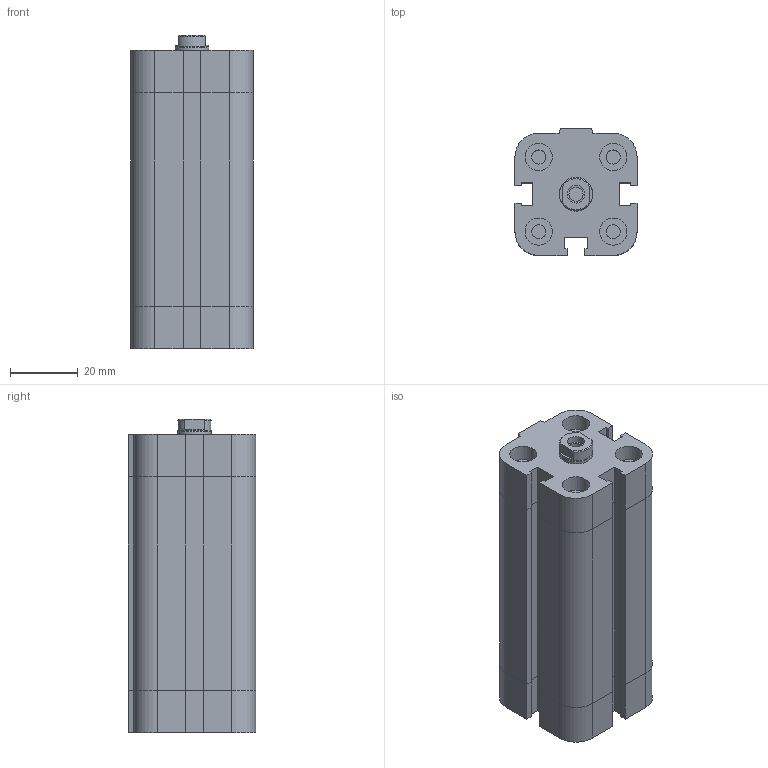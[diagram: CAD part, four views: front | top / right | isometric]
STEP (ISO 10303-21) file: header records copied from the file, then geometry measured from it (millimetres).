
FILE_DESCRIPTION((''),'2;1');
FILE_NAME('I:\Area Tecnica\Disegni\VARIE-3D\Componenti\EUROPE\15##_###_####_01_#\1581_20_0050_01_1.stp','2008-12-19T15:39:47',('rivolro1'),(''),'Autodesk Inventor 2009','Autodesk Inventor 2009','');
FILE_SCHEMA(('AUTOMOTIVE_DESIGN { 1 0 10303 214 1 1 1 1 }'));
Length unit declared in the file: millimetre
Products named in the file (3): 1581_20_0050_01_1; 1581_20_0050_01_1_C; 1561_20_0050_01_1_S
Assembly tree (2 placements, depth 2):
  1581_20_0050_01_1
    1581_20_0050_01_1_C
    1561_20_0050_01_1_S
Bounding box: 36 x 37.5 x 92.5 mm (x, y, z)
Volume: 99363.4 mm3; surface area: 25308.2 mm2
Topology: 2 solids, 2 shells, 163 faces, 349 edges, 211 vertices
Faces by surface type: plane 112, bspline 26, cylinder 22, cone 3
Full cylindrical faces by diameter (mm): 4.134 x4, 8 x4, 9.8 x1, 10 x1
Entity records: 4455 total; most frequent: CARTESIAN_POINT 952, DIRECTION 662, ORIENTED_EDGE 630, EDGE_CURVE 315, VECTOR 244, LINE 244, AXIS2_PLACEMENT_3D 209, EDGE_LOOP 208
